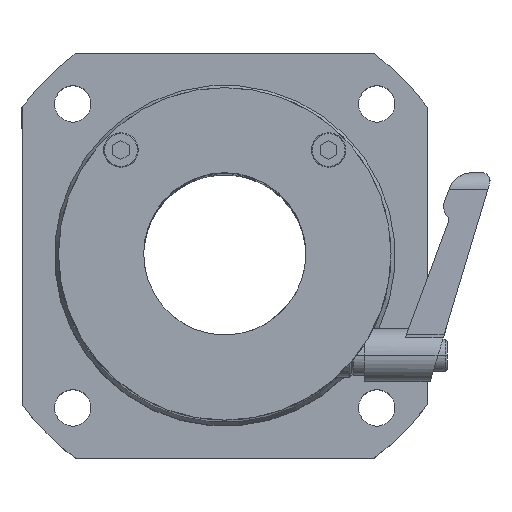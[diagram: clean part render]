
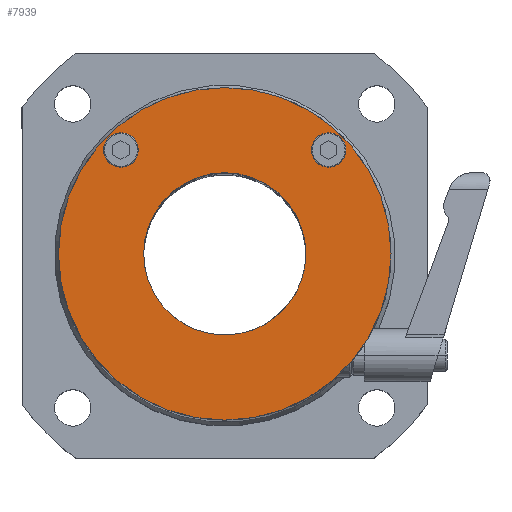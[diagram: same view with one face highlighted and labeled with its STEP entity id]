
A CAD part, top view. The second image highlights one B-rep face of the part: STEP entity #7939.
In plain terms, the highlighted planar face has unit normal (0, 0, 1).
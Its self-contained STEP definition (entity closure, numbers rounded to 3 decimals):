
#95 = AXIS2_PLACEMENT_3D ( 'NONE', #9675, #2787, #6381 ) ;
#270 = VERTEX_POINT ( 'NONE', #2641 ) ;
#280 = CARTESIAN_POINT ( 'NONE',  ( -21.128, 22.549, 92. ) ) ;
#342 = ORIENTED_EDGE ( 'NONE', *, *, #9797, .T. ) ;
#696 = DIRECTION ( 'NONE',  ( 1., 0., 0. ) ) ;
#707 = DIRECTION ( 'NONE',  ( 1., 0., 0. ) ) ;
#722 = DIRECTION ( 'NONE',  ( 0., 0., 1. ) ) ;
#969 = VERTEX_POINT ( 'NONE', #5246 ) ;
#1003 = CARTESIAN_POINT ( 'NONE',  ( 25.822, 22.549, 92. ) ) ;
#1227 = ORIENTED_EDGE ( 'NONE', *, *, #6935, .F. ) ;
#1284 = PLANE ( 'NONE',  #3207 ) ;
#1382 = VERTEX_POINT ( 'NONE', #6558 ) ;
#1414 = DIRECTION ( 'NONE',  ( 0., 0., 1. ) ) ;
#1575 = CARTESIAN_POINT ( 'NONE',  ( 30.072, 22.549, 92. ) ) ;
#1577 = VERTEX_POINT ( 'NONE', #280 ) ;
#1793 = CIRCLE ( 'NONE', #4975, 4.25 ) ;
#1981 = CARTESIAN_POINT ( 'NONE',  ( 0.222, -3.051, 92. ) ) ;
#2015 = VERTEX_POINT ( 'NONE', #1575 ) ;
#2129 = ORIENTED_EDGE ( 'NONE', *, *, #3950, .T. ) ;
#2423 = EDGE_CURVE ( 'NONE', #8977, #2015, #8500, .T. ) ;
#2641 = CARTESIAN_POINT ( 'NONE',  ( 41.222, -3.051, 92. ) ) ;
#2674 = DIRECTION ( 'NONE',  ( 0., 0., 1. ) ) ;
#2787 = DIRECTION ( 'NONE',  ( 0., 0., 1. ) ) ;
#3016 = DIRECTION ( 'NONE',  ( 1., 0., 0. ) ) ;
#3052 = ORIENTED_EDGE ( 'NONE', *, *, #8451, .F. ) ;
#3207 = AXIS2_PLACEMENT_3D ( 'NONE', #1981, #2674, #5724 ) ;
#3447 = AXIS2_PLACEMENT_3D ( 'NONE', #8302, #5864, #8152 ) ;
#3458 = ORIENTED_EDGE ( 'NONE', *, *, #9669, .F. ) ;
#3783 = EDGE_CURVE ( 'NONE', #969, #1577, #7990, .T. ) ;
#3949 = CARTESIAN_POINT ( 'NONE',  ( -19.778, -3.051, 92. ) ) ;
#3950 = EDGE_CURVE ( 'NONE', #270, #5301, #5111, .T. ) ;
#4081 = CARTESIAN_POINT ( 'NONE',  ( -40.778, -3.051, 92. ) ) ;
#4099 = DIRECTION ( 'NONE',  ( 0., 0., 1. ) ) ;
#4176 = FACE_BOUND ( 'NONE', #9051, .T. ) ;
#4476 = AXIS2_PLACEMENT_3D ( 'NONE', #7598, #722, #5520 ) ;
#4505 = EDGE_CURVE ( 'NONE', #1382, #4718, #8792, .T. ) ;
#4672 = CARTESIAN_POINT ( 'NONE',  ( 0.222, -3.051, 92. ) ) ;
#4718 = VERTEX_POINT ( 'NONE', #3949 ) ;
#4757 = DIRECTION ( 'NONE',  ( 1., 0., 0. ) ) ;
#4975 = AXIS2_PLACEMENT_3D ( 'NONE', #5971, #6820, #707 ) ;
#5111 = CIRCLE ( 'NONE', #8797, 41. ) ;
#5178 = ORIENTED_EDGE ( 'NONE', *, *, #2423, .F. ) ;
#5246 = CARTESIAN_POINT ( 'NONE',  ( -29.628, 22.549, 92. ) ) ;
#5301 = VERTEX_POINT ( 'NONE', #4081 ) ;
#5445 = DIRECTION ( 'NONE',  ( 0., 0., 1. ) ) ;
#5474 = EDGE_LOOP ( 'NONE', ( #342, #2129 ) ) ;
#5520 = DIRECTION ( 'NONE',  ( 1., 0., 0. ) ) ;
#5627 = FACE_BOUND ( 'NONE', #8967, .T. ) ;
#5639 = CARTESIAN_POINT ( 'NONE',  ( 0.222, -3.051, 92. ) ) ;
#5724 = DIRECTION ( 'NONE',  ( 1., 0., 0. ) ) ;
#5750 = AXIS2_PLACEMENT_3D ( 'NONE', #1003, #5445, #4757 ) ;
#5817 = FACE_BOUND ( 'NONE', #6747, .T. ) ;
#5864 = DIRECTION ( 'NONE',  ( 0., 0., 1. ) ) ;
#5971 = CARTESIAN_POINT ( 'NONE',  ( 25.822, 22.549, 92. ) ) ;
#6381 = DIRECTION ( 'NONE',  ( 1., 0., 0. ) ) ;
#6515 = CARTESIAN_POINT ( 'NONE',  ( -25.378, 22.549, 92. ) ) ;
#6538 = AXIS2_PLACEMENT_3D ( 'NONE', #6515, #1414, #696 ) ;
#6558 = CARTESIAN_POINT ( 'NONE',  ( 20.222, -3.051, 92. ) ) ;
#6747 = EDGE_LOOP ( 'NONE', ( #7357, #1227 ) ) ;
#6820 = DIRECTION ( 'NONE',  ( 0., 0., 1. ) ) ;
#6935 = EDGE_CURVE ( 'NONE', #1577, #969, #8918, .T. ) ;
#6958 = ORIENTED_EDGE ( 'NONE', *, *, #4505, .F. ) ;
#7302 = AXIS2_PLACEMENT_3D ( 'NONE', #4672, #4099, #3016 ) ;
#7351 = DIRECTION ( 'NONE',  ( 0., 0., 1. ) ) ;
#7357 = ORIENTED_EDGE ( 'NONE', *, *, #3783, .F. ) ;
#7598 = CARTESIAN_POINT ( 'NONE',  ( 0.222, -3.051, 92. ) ) ;
#7939 = ADVANCED_FACE ( 'NONE', ( #5627, #5817, #8751, #4176 ), #1284, .T. ) ;
#7944 = CIRCLE ( 'NONE', #3447, 20. ) ;
#7990 = CIRCLE ( 'NONE', #6538, 4.25 ) ;
#8070 = DIRECTION ( 'NONE',  ( 1., 0., 0. ) ) ;
#8152 = DIRECTION ( 'NONE',  ( 1., 0., 0. ) ) ;
#8302 = CARTESIAN_POINT ( 'NONE',  ( 0.222, -3.051, 92. ) ) ;
#8451 = EDGE_CURVE ( 'NONE', #2015, #8977, #1793, .T. ) ;
#8500 = CIRCLE ( 'NONE', #5750, 4.25 ) ;
#8735 = CARTESIAN_POINT ( 'NONE',  ( 21.572, 22.549, 92. ) ) ;
#8751 = FACE_OUTER_BOUND ( 'NONE', #5474, .T. ) ;
#8792 = CIRCLE ( 'NONE', #4476, 20. ) ;
#8797 = AXIS2_PLACEMENT_3D ( 'NONE', #5639, #7351, #8070 ) ;
#8918 = CIRCLE ( 'NONE', #95, 4.25 ) ;
#8967 = EDGE_LOOP ( 'NONE', ( #5178, #3052 ) ) ;
#8977 = VERTEX_POINT ( 'NONE', #8735 ) ;
#9051 = EDGE_LOOP ( 'NONE', ( #3458, #6958 ) ) ;
#9088 = CIRCLE ( 'NONE', #7302, 41. ) ;
#9669 = EDGE_CURVE ( 'NONE', #4718, #1382, #7944, .T. ) ;
#9675 = CARTESIAN_POINT ( 'NONE',  ( -25.378, 22.549, 92. ) ) ;
#9797 = EDGE_CURVE ( 'NONE', #5301, #270, #9088, .T. ) ;
